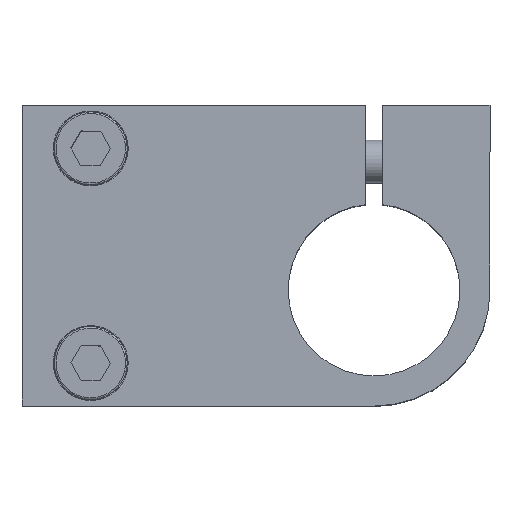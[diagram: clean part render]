
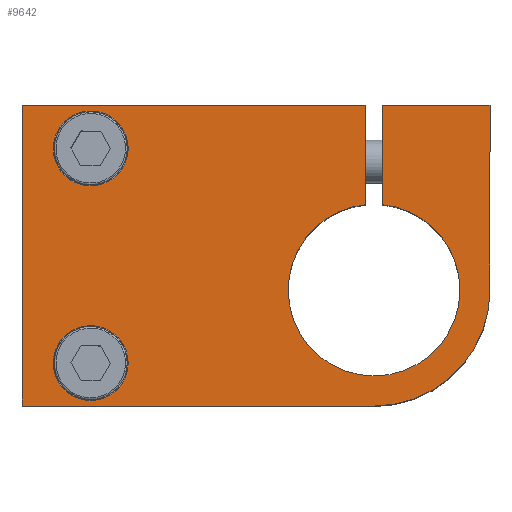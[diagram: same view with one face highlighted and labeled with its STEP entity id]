
A CAD part, top view. The second image highlights one B-rep face of the part: STEP entity #9642.
In plain terms, the highlighted planar face has unit normal (0, 0, 1).
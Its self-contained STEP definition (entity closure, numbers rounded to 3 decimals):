
#29 = DIRECTION ( 'NONE',  ( -1., 0., 0. ) ) ;
#40 = EDGE_CURVE ( 'NONE', #7564, #25572, #30973, .T. ) ;
#178 = CIRCLE ( 'NONE', #2836, 2.6 ) ;
#197 = LINE ( 'NONE', #26815, #13774 ) ;
#1422 = ORIENTED_EDGE ( 'NONE', *, *, #28762, .T. ) ;
#1842 = DIRECTION ( 'NONE',  ( 0., 0., -1. ) ) ;
#1939 = DIRECTION ( 'NONE',  ( -1., 0., 0. ) ) ;
#2322 = CIRCLE ( 'NONE', #13615, 2.6 ) ;
#2447 = CARTESIAN_POINT ( 'NONE',  ( -64.055, 45.934, 39.766 ) ) ;
#2668 = CIRCLE ( 'NONE', #34664, 2.6 ) ;
#2684 = ORIENTED_EDGE ( 'NONE', *, *, #9166, .T. ) ;
#2836 = AXIS2_PLACEMENT_3D ( 'NONE', #5042, #24113, #7740 ) ;
#2893 = AXIS2_PLACEMENT_3D ( 'NONE', #18177, #1842, #20926 ) ;
#2981 = DIRECTION ( 'NONE',  ( -1., 0., 0. ) ) ;
#3147 = EDGE_CURVE ( 'NONE', #31723, #7564, #27602, .T. ) ;
#3217 = FACE_BOUND ( 'NONE', #21020, .T. ) ;
#3282 = LINE ( 'NONE', #31452, #16892 ) ;
#3479 = CARTESIAN_POINT ( 'NONE',  ( -98.055, 40.934, 39.766 ) ) ;
#3663 = LINE ( 'NONE', #23970, #17274 ) ;
#3730 = CARTESIAN_POINT ( 'NONE',  ( -55.055, 24.434, 39.766 ) ) ;
#3746 = DIRECTION ( 'NONE',  ( 0., 0., -1. ) ) ;
#3760 = EDGE_CURVE ( 'NONE', #11804, #11835, #3663, .T. ) ;
#4155 = EDGE_CURVE ( 'NONE', #18940, #16333, #7027, .T. ) ;
#4264 = AXIS2_PLACEMENT_3D ( 'NONE', #3479, #22547, #6206 ) ;
#4792 = CARTESIAN_POINT ( 'NONE',  ( -65.055, 10.934, 39.766 ) ) ;
#4862 = DIRECTION ( 'NONE',  ( 0., 1., 0. ) ) ;
#4895 = EDGE_CURVE ( 'NONE', #11835, #21200, #9027, .T. ) ;
#5042 = CARTESIAN_POINT ( 'NONE',  ( -98.055, 15.934, 39.766 ) ) ;
#5158 = LINE ( 'NONE', #31168, #33302 ) ;
#5280 = ORIENTED_EDGE ( 'NONE', *, *, #4155, .T. ) ;
#6206 = DIRECTION ( 'NONE',  ( -1., 0., 0. ) ) ;
#6268 = VERTEX_POINT ( 'NONE', #2447 ) ;
#6309 = LINE ( 'NONE', #12912, #27173 ) ;
#6406 = AXIS2_PLACEMENT_3D ( 'NONE', #29732, #14137, #2981 ) ;
#6560 = EDGE_LOOP ( 'NONE', ( #22918, #16887, #31821, #12160, #13422, #7461, #10419, #5280, #29152, #1422, #2684 ) ) ;
#7027 = CIRCLE ( 'NONE', #19108, 13.5 ) ;
#7199 = CARTESIAN_POINT ( 'NONE',  ( -95.455, 15.934, 39.766 ) ) ;
#7461 = ORIENTED_EDGE ( 'NONE', *, *, #4895, .T. ) ;
#7564 = VERTEX_POINT ( 'NONE', #21497 ) ;
#7591 = DIRECTION ( 'NONE',  ( -1., 0., 0. ) ) ;
#7740 = DIRECTION ( 'NONE',  ( -1., 0., 0. ) ) ;
#7890 = VERTEX_POINT ( 'NONE', #19674 ) ;
#8615 = EDGE_LOOP ( 'NONE', ( #13800, #23222 ) ) ;
#8791 = EDGE_CURVE ( 'NONE', #25572, #11804, #6309, .T. ) ;
#9027 = LINE ( 'NONE', #11627, #16280 ) ;
#9166 = EDGE_CURVE ( 'NONE', #6268, #27569, #3282, .T. ) ;
#9625 = DIRECTION ( 'NONE',  ( 0., -1., 0. ) ) ;
#9642 = ADVANCED_FACE ( 'NONE', ( #10453, #3217, #17688 ), #17708, .T. ) ;
#10419 = ORIENTED_EDGE ( 'NONE', *, *, #22107, .T. ) ;
#10453 = FACE_BOUND ( 'NONE', #8615, .T. ) ;
#11627 = CARTESIAN_POINT ( 'NONE',  ( -106.055, 28.434, 39.766 ) ) ;
#11804 = VERTEX_POINT ( 'NONE', #18277 ) ;
#11835 = VERTEX_POINT ( 'NONE', #26593 ) ;
#12160 = ORIENTED_EDGE ( 'NONE', *, *, #8791, .T. ) ;
#12912 = CARTESIAN_POINT ( 'NONE',  ( -66.055, 28.434, 39.766 ) ) ;
#13063 = ORIENTED_EDGE ( 'NONE', *, *, #27320, .F. ) ;
#13122 = CARTESIAN_POINT ( 'NONE',  ( -100.655, 40.934, 39.766 ) ) ;
#13422 = ORIENTED_EDGE ( 'NONE', *, *, #3760, .T. ) ;
#13615 = AXIS2_PLACEMENT_3D ( 'NONE', #32191, #15821, #34902 ) ;
#13774 = VECTOR ( 'NONE', #34910, 1000. ) ;
#13800 = ORIENTED_EDGE ( 'NONE', *, *, #24597, .T. ) ;
#14057 = LINE ( 'NONE', #28147, #34963 ) ;
#14137 = DIRECTION ( 'NONE',  ( 0., 0., -1. ) ) ;
#14435 = VERTEX_POINT ( 'NONE', #7199 ) ;
#14472 = DIRECTION ( 'NONE',  ( 0., -1., 0. ) ) ;
#14851 = VERTEX_POINT ( 'NONE', #31249 ) ;
#15053 = DIRECTION ( 'NONE',  ( 0., 0., 1. ) ) ;
#15139 = EDGE_CURVE ( 'NONE', #16333, #7890, #197, .T. ) ;
#15821 = DIRECTION ( 'NONE',  ( 0., 0., 1. ) ) ;
#16249 = CARTESIAN_POINT ( 'NONE',  ( -106.055, 10.934, 39.766 ) ) ;
#16280 = VECTOR ( 'NONE', #14472, 1000. ) ;
#16295 = DIRECTION ( 'NONE',  ( 0., 0., 1. ) ) ;
#16333 = VERTEX_POINT ( 'NONE', #17544 ) ;
#16887 = ORIENTED_EDGE ( 'NONE', *, *, #3147, .T. ) ;
#16892 = VECTOR ( 'NONE', #9625, 1000. ) ;
#17274 = VECTOR ( 'NONE', #7591, 1000. ) ;
#17332 = EDGE_CURVE ( 'NONE', #14435, #30665, #178, .T. ) ;
#17544 = CARTESIAN_POINT ( 'NONE',  ( -51.555, 24.434, 39.766 ) ) ;
#17688 = FACE_OUTER_BOUND ( 'NONE', #6560, .T. ) ;
#17708 = PLANE ( 'NONE',  #30418 ) ;
#18177 = CARTESIAN_POINT ( 'NONE',  ( -65.055, 24.434, 39.766 ) ) ;
#18273 = DIRECTION ( 'NONE',  ( 0., 0., -1. ) ) ;
#18277 = CARTESIAN_POINT ( 'NONE',  ( -66.055, 45.934, 39.766 ) ) ;
#18382 = EDGE_CURVE ( 'NONE', #27569, #31723, #33665, .T. ) ;
#18434 = VERTEX_POINT ( 'NONE', #13122 ) ;
#18940 = VERTEX_POINT ( 'NONE', #4792 ) ;
#19108 = AXIS2_PLACEMENT_3D ( 'NONE', #32665, #16295, #29 ) ;
#19674 = CARTESIAN_POINT ( 'NONE',  ( -51.555, 45.934, 39.766 ) ) ;
#20030 = CARTESIAN_POINT ( 'NONE',  ( -98.055, 40.934, 39.766 ) ) ;
#20714 = CARTESIAN_POINT ( 'NONE',  ( -100.655, 15.934, 39.766 ) ) ;
#20926 = DIRECTION ( 'NONE',  ( -1., 0., 0. ) ) ;
#21020 = EDGE_LOOP ( 'NONE', ( #13063, #21651 ) ) ;
#21200 = VERTEX_POINT ( 'NONE', #16249 ) ;
#21497 = CARTESIAN_POINT ( 'NONE',  ( -75.055, 24.434, 39.766 ) ) ;
#21651 = ORIENTED_EDGE ( 'NONE', *, *, #17332, .F. ) ;
#22107 = EDGE_CURVE ( 'NONE', #21200, #18940, #5158, .T. ) ;
#22547 = DIRECTION ( 'NONE',  ( 0., 0., -1. ) ) ;
#22823 = DIRECTION ( 'NONE',  ( -1., 0., 0. ) ) ;
#22918 = ORIENTED_EDGE ( 'NONE', *, *, #18382, .T. ) ;
#23222 = ORIENTED_EDGE ( 'NONE', *, *, #26722, .T. ) ;
#23970 = CARTESIAN_POINT ( 'NONE',  ( -78.805, 45.934, 39.766 ) ) ;
#24113 = DIRECTION ( 'NONE',  ( 0., 0., 1. ) ) ;
#24597 = EDGE_CURVE ( 'NONE', #18434, #14851, #2668, .T. ) ;
#25572 = VERTEX_POINT ( 'NONE', #32509 ) ;
#26593 = CARTESIAN_POINT ( 'NONE',  ( -106.055, 45.934, 39.766 ) ) ;
#26722 = EDGE_CURVE ( 'NONE', #14851, #18434, #27570, .T. ) ;
#26815 = CARTESIAN_POINT ( 'NONE',  ( -51.555, 28.434, 39.766 ) ) ;
#27173 = VECTOR ( 'NONE', #4862, 1000. ) ;
#27320 = EDGE_CURVE ( 'NONE', #30665, #14435, #2322, .T. ) ;
#27569 = VERTEX_POINT ( 'NONE', #33838 ) ;
#27570 = CIRCLE ( 'NONE', #4264, 2.6 ) ;
#27602 = CIRCLE ( 'NONE', #30012, 10. ) ;
#28147 = CARTESIAN_POINT ( 'NONE',  ( -78.805, 45.934, 39.766 ) ) ;
#28530 = DIRECTION ( 'NONE',  ( 1., 0., 0. ) ) ;
#28762 = EDGE_CURVE ( 'NONE', #7890, #6268, #14057, .T. ) ;
#29152 = ORIENTED_EDGE ( 'NONE', *, *, #15139, .T. ) ;
#29732 = CARTESIAN_POINT ( 'NONE',  ( -65.055, 24.434, 39.766 ) ) ;
#30012 = AXIS2_PLACEMENT_3D ( 'NONE', #34561, #18273, #1939 ) ;
#30418 = AXIS2_PLACEMENT_3D ( 'NONE', #31423, #15053, #34148 ) ;
#30665 = VERTEX_POINT ( 'NONE', #20714 ) ;
#30973 = CIRCLE ( 'NONE', #6406, 10. ) ;
#31168 = CARTESIAN_POINT ( 'NONE',  ( -78.805, 10.934, 39.766 ) ) ;
#31249 = CARTESIAN_POINT ( 'NONE',  ( -95.455, 40.934, 39.766 ) ) ;
#31423 = CARTESIAN_POINT ( 'NONE',  ( -106.055, 10.934, 39.766 ) ) ;
#31452 = CARTESIAN_POINT ( 'NONE',  ( -64.055, 28.434, 39.766 ) ) ;
#31723 = VERTEX_POINT ( 'NONE', #3730 ) ;
#31821 = ORIENTED_EDGE ( 'NONE', *, *, #40, .T. ) ;
#32191 = CARTESIAN_POINT ( 'NONE',  ( -98.055, 15.934, 39.766 ) ) ;
#32509 = CARTESIAN_POINT ( 'NONE',  ( -66.055, 34.384, 39.766 ) ) ;
#32665 = CARTESIAN_POINT ( 'NONE',  ( -65.055, 24.434, 39.766 ) ) ;
#33302 = VECTOR ( 'NONE', #28530, 1000. ) ;
#33524 = DIRECTION ( 'NONE',  ( -1., 0., 0. ) ) ;
#33665 = CIRCLE ( 'NONE', #2893, 10. ) ;
#33838 = CARTESIAN_POINT ( 'NONE',  ( -64.055, 34.384, 39.766 ) ) ;
#34148 = DIRECTION ( 'NONE',  ( 1., 0., 0. ) ) ;
#34561 = CARTESIAN_POINT ( 'NONE',  ( -65.055, 24.434, 39.766 ) ) ;
#34664 = AXIS2_PLACEMENT_3D ( 'NONE', #20030, #3746, #22823 ) ;
#34902 = DIRECTION ( 'NONE',  ( -1., 0., 0. ) ) ;
#34910 = DIRECTION ( 'NONE',  ( 0., 1., 0. ) ) ;
#34963 = VECTOR ( 'NONE', #33524, 1000. ) ;
